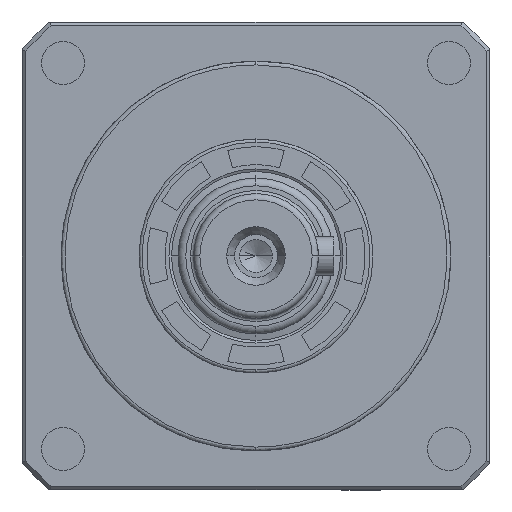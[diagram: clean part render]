
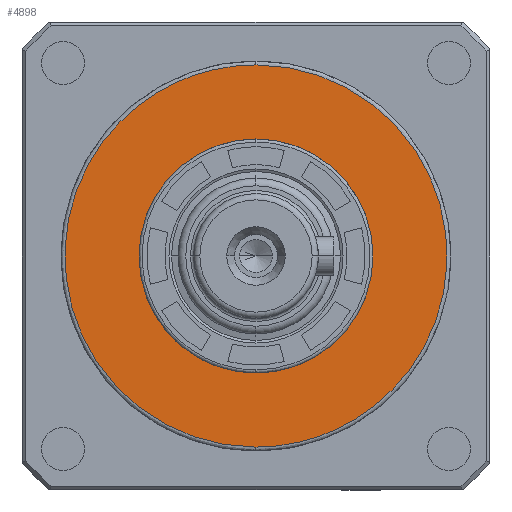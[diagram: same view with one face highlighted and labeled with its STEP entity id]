
A CAD part, left-side view. The second image highlights one B-rep face of the part: STEP entity #4898.
In plain terms, the highlighted planar face has unit normal (-1, 0, 0).
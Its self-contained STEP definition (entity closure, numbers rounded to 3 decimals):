
#583 = CARTESIAN_POINT ( 'NONE',  ( 2., 0., -24.5 ) ) ;
#2899 = VERTEX_POINT ( 'NONE', #583 ) ;
#3863 =( BOUNDED_CURVE ( )  B_SPLINE_CURVE ( 3, ( #39836, #39776, #39580, #39530 ),
 .UNSPECIFIED., .F., .T. ) 
 B_SPLINE_CURVE_WITH_KNOTS ( ( 4, 4 ),
 ( 0., 1. ),
 .UNSPECIFIED. ) 
 CURVE ( )  GEOMETRIC_REPRESENTATION_ITEM ( )  RATIONAL_B_SPLINE_CURVE ( ( 1., 0.333, 0.333, 1. ) ) 
 REPRESENTATION_ITEM ( '' )  );
#4898 = ADVANCED_FACE ( 'NONE', ( #9776, #9826 ), #33976, .F. ) ;
#5121 = ORIENTED_EDGE ( 'NONE', *, *, #39945, .F. ) ;
#5460 = VERTEX_POINT ( 'NONE', #9620 ) ;
#5647 = EDGE_LOOP ( 'NONE', ( #39534, #22647 ) ) ;
#6380 = CARTESIAN_POINT ( 'NONE',  ( 2., 0., -15. ) ) ;
#7038 = AXIS2_PLACEMENT_3D ( 'NONE', #12781, #12744, #12726 ) ;
#9136 = ORIENTED_EDGE ( 'NONE', *, *, #42839, .F. ) ;
#9265 = EDGE_LOOP ( 'NONE', ( #5121, #9136 ) ) ;
#9620 = CARTESIAN_POINT ( 'NONE',  ( 2., 0., 15. ) ) ;
#9776 = FACE_OUTER_BOUND ( 'NONE', #9265, .T. ) ;
#9826 = FACE_BOUND ( 'NONE', #5647, .T. ) ;
#10421 = VERTEX_POINT ( 'NONE', #6380 ) ;
#10709 = AXIS2_PLACEMENT_3D ( 'NONE', #24767, #24720, #24664 ) ;
#12726 = DIRECTION ( 'NONE',  ( 0., 0., 1. ) ) ;
#12744 = DIRECTION ( 'NONE',  ( -1., 0., 0. ) ) ;
#12781 = CARTESIAN_POINT ( 'NONE',  ( 2., 0., 0. ) ) ;
#14492 =( BOUNDED_CURVE ( )  B_SPLINE_CURVE ( 3, ( #41658, #43051, #41666, #41574 ),
 .UNSPECIFIED., .F., .T. ) 
 B_SPLINE_CURVE_WITH_KNOTS ( ( 4, 4 ),
 ( 0., 1. ),
 .UNSPECIFIED. ) 
 CURVE ( )  GEOMETRIC_REPRESENTATION_ITEM ( )  RATIONAL_B_SPLINE_CURVE ( ( 1., 0.333, 0.333, 1. ) ) 
 REPRESENTATION_ITEM ( '' )  );
#18632 = EDGE_CURVE ( 'NONE', #10421, #5460, #35609, .T. ) ;
#19164 = AXIS2_PLACEMENT_3D ( 'NONE', #32539, #32378, #32219 ) ;
#22647 = ORIENTED_EDGE ( 'NONE', *, *, #18632, .F. ) ;
#23394 = CARTESIAN_POINT ( 'NONE',  ( 2., 0., 24.5 ) ) ;
#24664 = DIRECTION ( 'NONE',  ( 0., 0., 1. ) ) ;
#24720 = DIRECTION ( 'NONE',  ( -1., 0., 0. ) ) ;
#24767 = CARTESIAN_POINT ( 'NONE',  ( 2., 0., 0. ) ) ;
#32219 = DIRECTION ( 'NONE',  ( 0., 0., -1. ) ) ;
#32378 = DIRECTION ( 'NONE',  ( 1., 0., 0. ) ) ;
#32539 = CARTESIAN_POINT ( 'NONE',  ( 2., 21.693, 0. ) ) ;
#32969 = VERTEX_POINT ( 'NONE', #23394 ) ;
#33976 = PLANE ( 'NONE',  #19164 ) ;
#35609 = CIRCLE ( 'NONE', #10709, 15. ) ;
#39530 = CARTESIAN_POINT ( 'NONE',  ( 2., 0., 24.5 ) ) ;
#39534 = ORIENTED_EDGE ( 'NONE', *, *, #43381, .F. ) ;
#39580 = CARTESIAN_POINT ( 'NONE',  ( 2., 49., 24.5 ) ) ;
#39776 = CARTESIAN_POINT ( 'NONE',  ( 2., 49., -24.5 ) ) ;
#39836 = CARTESIAN_POINT ( 'NONE',  ( 2., 0., -24.5 ) ) ;
#39945 = EDGE_CURVE ( 'NONE', #32969, #2899, #14492, .T. ) ;
#40485 = CIRCLE ( 'NONE', #7038, 15. ) ;
#41574 = CARTESIAN_POINT ( 'NONE',  ( 2., 0., -24.5 ) ) ;
#41658 = CARTESIAN_POINT ( 'NONE',  ( 2., 0., 24.5 ) ) ;
#41666 = CARTESIAN_POINT ( 'NONE',  ( 2., -49., -24.5 ) ) ;
#42839 = EDGE_CURVE ( 'NONE', #2899, #32969, #3863, .T. ) ;
#43051 = CARTESIAN_POINT ( 'NONE',  ( 2., -49., 24.5 ) ) ;
#43381 = EDGE_CURVE ( 'NONE', #5460, #10421, #40485, .T. ) ;
